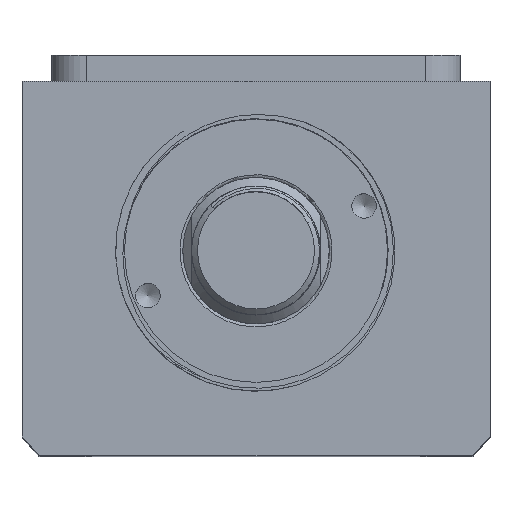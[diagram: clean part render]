
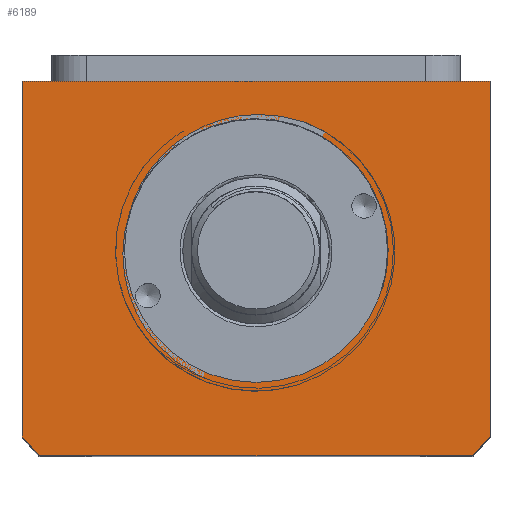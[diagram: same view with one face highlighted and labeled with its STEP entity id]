
A CAD part, top view. The second image highlights one B-rep face of the part: STEP entity #6189.
In plain terms, the highlighted planar face has unit normal (0, 0, 1).
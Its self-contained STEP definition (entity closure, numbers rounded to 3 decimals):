
#556=LINE('',#23546,#1574);
#568=LINE('',#23735,#1586);
#592=LINE('',#23788,#1610);
#599=LINE('',#23808,#1617);
#1574=VECTOR('',#14235,1.);
#1586=VECTOR('',#14313,1.);
#1610=VECTOR('',#14343,1.);
#1617=VECTOR('',#14360,1.);
#5122=PLANE('',#13617);
#6189=ADVANCED_FACE('',(#6846,#6847),#5122,.T.);
#6707=CIRCLE('',#13606,22.5);
#6713=CIRCLE('',#13615,51.);
#6714=CIRCLE('',#13616,51.);
#6846=FACE_BOUND('',#7051,.T.);
#6847=FACE_BOUND('',#7052,.T.);
#7051=EDGE_LOOP('',(#8152));
#7052=EDGE_LOOP('',(#8153,#8154,#8155,#8156,#8157,#8158));
#8152=ORIENTED_EDGE('',*,*,#11942,.F.);
#8153=ORIENTED_EDGE('',*,*,#11945,.T.);
#8154=ORIENTED_EDGE('',*,*,#11980,.T.);
#8155=ORIENTED_EDGE('',*,*,#11971,.T.);
#8156=ORIENTED_EDGE('',*,*,#11981,.T.);
#8157=ORIENTED_EDGE('',*,*,#11910,.T.);
#8158=ORIENTED_EDGE('',*,*,#11982,.T.);
#10807=VERTEX_POINT('',#23545);
#10808=VERTEX_POINT('',#23547);
#10838=VERTEX_POINT('',#23728);
#10840=VERTEX_POINT('',#23733);
#10842=VERTEX_POINT('',#23736);
#10867=VERTEX_POINT('',#23787);
#10868=VERTEX_POINT('',#23789);
#11910=EDGE_CURVE('',#10808,#10807,#556,.T.);
#11942=EDGE_CURVE('',#10838,#10838,#6707,.T.);
#11945=EDGE_CURVE('',#10842,#10840,#568,.T.);
#11971=EDGE_CURVE('',#10868,#10867,#592,.T.);
#11980=EDGE_CURVE('',#10840,#10868,#6713,.T.);
#11981=EDGE_CURVE('',#10867,#10808,#6714,.T.);
#11982=EDGE_CURVE('',#10807,#10842,#599,.T.);
#13606=AXIS2_PLACEMENT_3D('',#23727,#14306,#14307);
#13615=AXIS2_PLACEMENT_3D('',#23806,#14356,#14357);
#13616=AXIS2_PLACEMENT_3D('',#23807,#14358,#14359);
#13617=AXIS2_PLACEMENT_3D('',#23809,#14361,#14362);
#14235=DIRECTION('',(0.,1.,0.));
#14306=DIRECTION('',(0.,0.,1.));
#14307=DIRECTION('',(1.,0.,0.));
#14313=DIRECTION('',(0.,-1.,0.));
#14343=DIRECTION('',(1.,0.,0.));
#14356=DIRECTION('',(0.,0.,1.));
#14357=DIRECTION('',(1.,0.,0.));
#14358=DIRECTION('',(0.,0.,1.));
#14359=DIRECTION('',(1.,0.,0.));
#14360=DIRECTION('',(-1.,0.,0.));
#14361=DIRECTION('',(0.,0.,1.));
#14362=DIRECTION('',(-1.,0.,0.));
#23545=CARTESIAN_POINT('',(17.471,49.522,60.));
#23546=CARTESIAN_POINT('',(17.471,49.522,60.));
#23547=CARTESIAN_POINT('',(17.471,-11.116,60.));
#23727=CARTESIAN_POINT('',(-22.529,20.522,60.));
#23728=CARTESIAN_POINT('',(-0.029,20.522,60.));
#23733=CARTESIAN_POINT('',(-62.529,-11.116,60.));
#23735=CARTESIAN_POINT('',(-62.529,49.522,60.));
#23736=CARTESIAN_POINT('',(-62.529,49.522,60.));
#23787=CARTESIAN_POINT('',(14.566,-14.478,60.));
#23788=CARTESIAN_POINT('',(-62.529,-14.478,60.));
#23789=CARTESIAN_POINT('',(-59.623,-14.478,60.));
#23806=CARTESIAN_POINT('',(-22.529,20.522,60.));
#23807=CARTESIAN_POINT('',(-22.529,20.522,60.));
#23808=CARTESIAN_POINT('',(-62.529,49.522,60.));
#23809=CARTESIAN_POINT('',(-22.529,61.029,60.));
